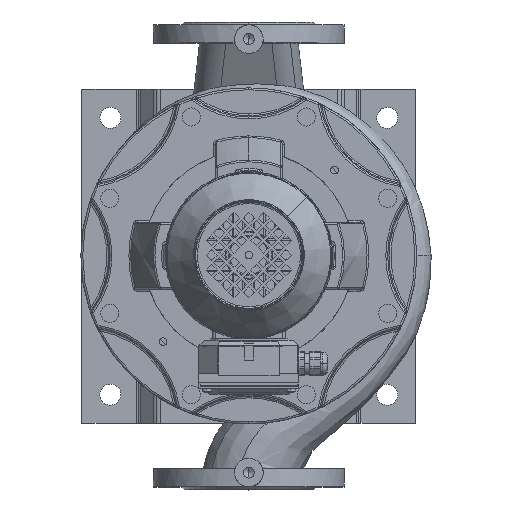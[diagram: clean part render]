
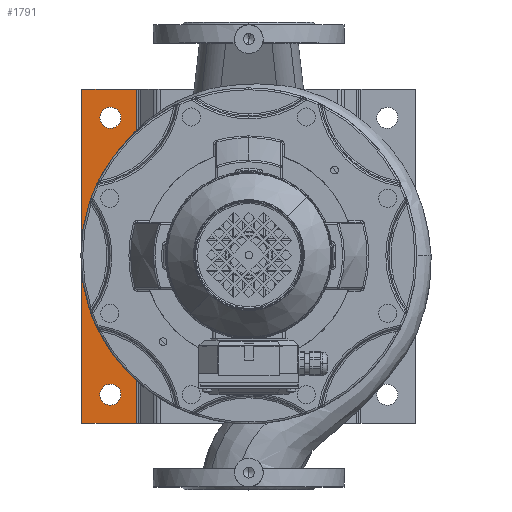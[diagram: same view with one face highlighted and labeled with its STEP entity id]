
A CAD part, top view. The second image highlights one B-rep face of the part: STEP entity #1791.
In plain terms, the highlighted planar face has unit normal (0, 0, 1) as drawn and (0, 1, 0) by its records, which use the part's own axes.
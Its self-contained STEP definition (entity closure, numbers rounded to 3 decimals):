
#1791=ADVANCED_FACE('',(#3280,#3281,#3282),#3283,.F.);
#1835=EDGE_CURVE('',#3363,#3364,#3365,.T.);
#3280=FACE_OUTER_BOUND('',#9022,.T.);
#3281=FACE_BOUND('',#9023,.T.);
#3282=FACE_BOUND('',#9024,.T.);
#3283=PLANE('',#9025);
#3363=VERTEX_POINT('',#9108);
#3364=VERTEX_POINT('',#9109);
#3365=LINE('',#9110,#9111);
#9022=EDGE_LOOP('',(#16287,#16288,#16289,#16290));
#9023=EDGE_LOOP('',(#16291,#16292));
#9024=EDGE_LOOP('',(#16293,#16294));
#9025=AXIS2_PLACEMENT_3D('',#16295,#16296,#16297);
#9108=CARTESIAN_POINT('',(350.,5.0,0.));
#9109=CARTESIAN_POINT('',(292.485,5.0,0.));
#9110=CARTESIAN_POINT('',(350.,5.0,0.));
#9111=VECTOR('',#16535,1.);
#16287=ORIENTED_EDGE('',*,*,#28737,.F.);
#16288=ORIENTED_EDGE('',*,*,#28738,.F.);
#16289=ORIENTED_EDGE('',*,*,#28739,.F.);
#16290=ORIENTED_EDGE('',*,*,#1835,.T.);
#16291=ORIENTED_EDGE('',*,*,#28716,.T.);
#16292=ORIENTED_EDGE('',*,*,#28690,.T.);
#16293=ORIENTED_EDGE('',*,*,#28707,.T.);
#16294=ORIENTED_EDGE('',*,*,#28705,.T.);
#16295=CARTESIAN_POINT('',(320.,5.0,0.));
#16296=DIRECTION('',(0.0,-1.0,-0.0));
#16297=DIRECTION('',(1.0,0.0,0.));
#16535=DIRECTION('',(-1.0,0.0,0.));
#28690=EDGE_CURVE('',#47145,#47149,#47151,.T.);
#28705=EDGE_CURVE('',#47172,#47176,#47178,.T.);
#28707=EDGE_CURVE('',#47176,#47172,#47180,.T.);
#28716=EDGE_CURVE('',#47149,#47145,#47189,.T.);
#28737=EDGE_CURVE('',#47211,#3364,#47212,.T.);
#28738=EDGE_CURVE('',#47213,#47211,#47214,.T.);
#28739=EDGE_CURVE('',#3363,#47213,#47215,.T.);
#47145=VERTEX_POINT('',#56423);
#47149=VERTEX_POINT('',#56428);
#47151=CIRCLE('',#56431,11.0);
#47172=VERTEX_POINT('',#56456);
#47176=VERTEX_POINT('',#56461);
#47178=CIRCLE('',#56464,11.0);
#47180=CIRCLE('',#56466,11.0);
#47189=CIRCLE('',#56475,11.0);
#47211=VERTEX_POINT('',#56499);
#47212=LINE('',#56500,#56501);
#47213=VERTEX_POINT('',#56502);
#47214=LINE('',#56503,#56504);
#47215=LINE('',#56505,#56506);
#56423=CARTESIAN_POINT('',(317.522,5.0,19.283));
#56428=CARTESIAN_POINT('',(322.478,5.0,40.717));
#56431=AXIS2_PLACEMENT_3D('',#66483,#66484,#66485);
#56456=CARTESIAN_POINT('',(318.321,5.0,309.129));
#56461=CARTESIAN_POINT('',(321.679,5.0,330.871));
#56464=AXIS2_PLACEMENT_3D('',#66507,#66508,#66509);
#56466=AXIS2_PLACEMENT_3D('',#66510,#66511,#66512);
#56475=AXIS2_PLACEMENT_3D('',#66528,#66529,#66530);
#56499=CARTESIAN_POINT('',(292.485,5.0,350.));
#56500=CARTESIAN_POINT('',(292.485,5.0,0.));
#56501=VECTOR('',#66566,1.0);
#56502=CARTESIAN_POINT('',(350.,5.0,350.));
#56503=CARTESIAN_POINT('',(350.,5.0,350.));
#56504=VECTOR('',#66567,1.);
#56505=CARTESIAN_POINT('',(350.,5.0,0.));
#56506=VECTOR('',#66568,1.0);
#66483=CARTESIAN_POINT('',(320.,5.0,30.));
#66484=DIRECTION('',(-0.0,-1.0,0.0));
#66485=DIRECTION('',(-0.225,0.0,-0.974));
#66507=CARTESIAN_POINT('',(320.,5.0,320.));
#66508=DIRECTION('',(-0.0,-1.0,0.0));
#66509=DIRECTION('',(-0.153,0.0,-0.988));
#66510=CARTESIAN_POINT('',(320.,5.0,320.));
#66511=DIRECTION('',(-0.0,-1.0,0.0));
#66512=DIRECTION('',(-0.153,0.0,-0.988));
#66528=CARTESIAN_POINT('',(320.,5.0,30.));
#66529=DIRECTION('',(-0.0,-1.0,0.0));
#66530=DIRECTION('',(-0.225,0.0,-0.974));
#66566=DIRECTION('',(0.,0.0,-1.0));
#66567=DIRECTION('',(-1.0,0.0,0.));
#66568=DIRECTION('',(0.,0.0,1.0));
